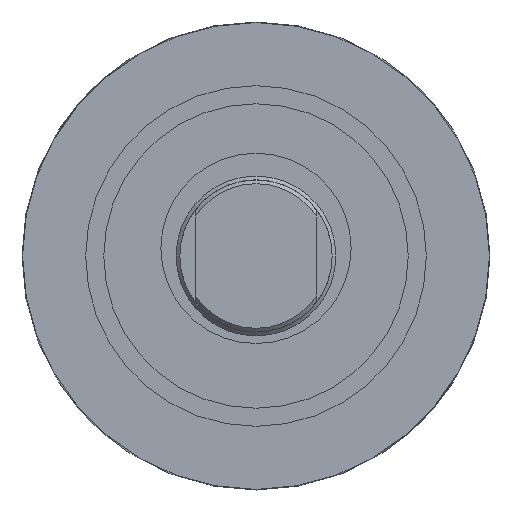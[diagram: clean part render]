
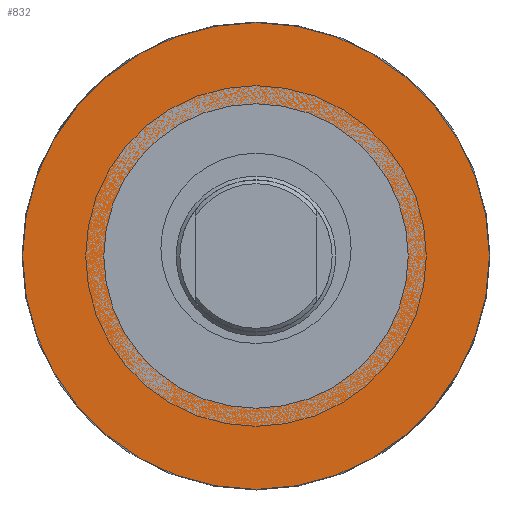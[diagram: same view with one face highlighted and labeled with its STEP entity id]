
A CAD part, left-side view. The second image highlights one B-rep face of the part: STEP entity #832.
In plain terms, the highlighted planar face has unit normal (-1, 0, 0).
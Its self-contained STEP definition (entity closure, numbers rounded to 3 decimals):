
#150=FACE_OUTER_BOUND('',#206,.T.);
#206=EDGE_LOOP('',(#608));
#268=CIRCLE('',#940,61.329);
#349=VERTEX_POINT('',#1480);
#445=EDGE_CURVE('',#349,#349,#268,.T.);
#608=ORIENTED_EDGE('',*,*,#445,.T.);
#732=PLANE('',#939);
#832=ADVANCED_FACE('',(#150),#732,.T.);
#939=AXIS2_PLACEMENT_3D('',#1479,#1133,#1134);
#940=AXIS2_PLACEMENT_3D('',#1481,#1135,#1136);
#1133=DIRECTION('center_axis',(-1.,0.,0.));
#1134=DIRECTION('ref_axis',(0.,0.,1.));
#1135=DIRECTION('center_axis',(-1.,0.,0.));
#1136=DIRECTION('ref_axis',(0.,0.,-1.));
#1479=CARTESIAN_POINT('Origin',(68.434,39.247,0.));
#1480=CARTESIAN_POINT('',(68.434,-13.793,61.329));
#1481=CARTESIAN_POINT('Origin',(68.434,-13.793,0.));
